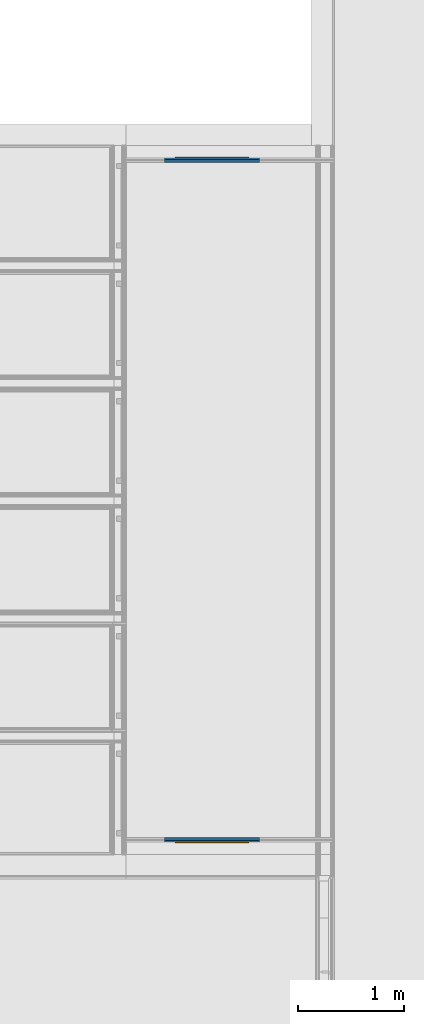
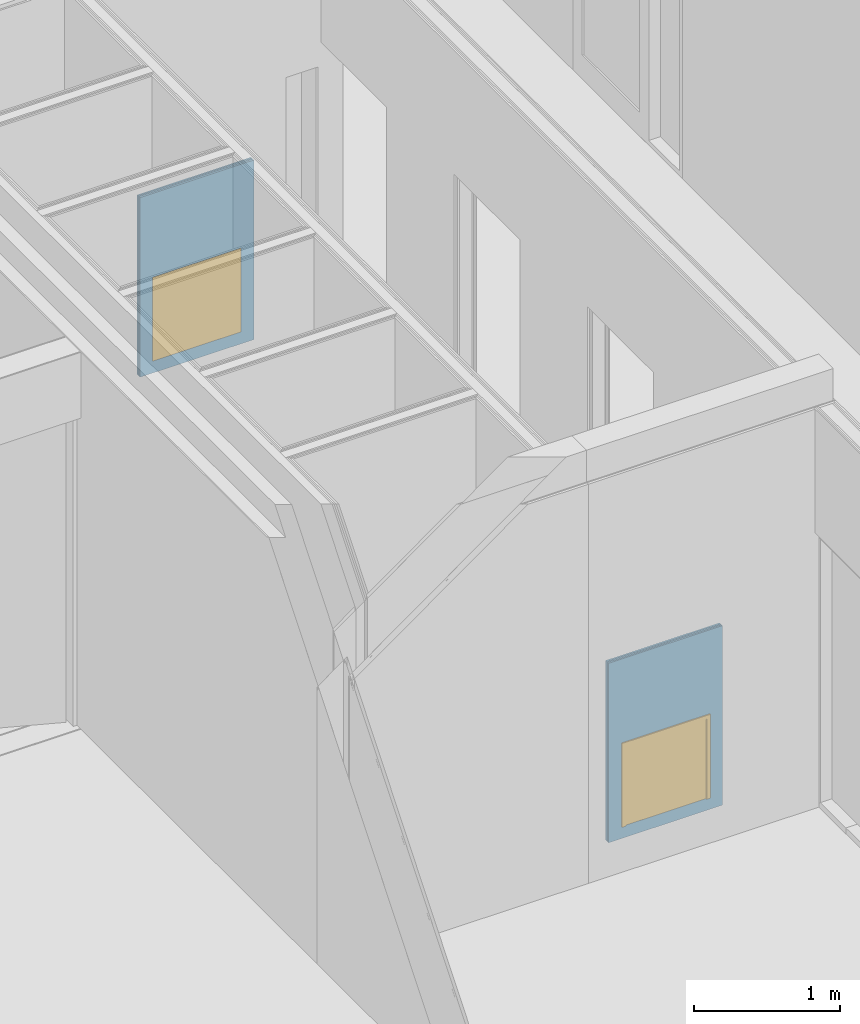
# One storey, part 26 of 139: 6 building element parts, 2 doors, 2 openings, 2 elements without a shape of their own.
"""IFC2X3 building model written with IfcOpenShell, lengths in millimetres."""

import ifcopenshell
import ifcopenshell.guid

model = None  # the IFC model being written
_history = None  # IfcOwnerHistory: only IFC2X3 demands one
_inside = {}  # id of a spatial element -> (the spatial element, [elements in it])
_under = {}  # id of a project, library or spatial element -> (it, [spatial elements below it])
_declared = {}  # id of a project -> (the project, [libraries it declares])
_typed = {}  # id of a type object -> (the type object, [elements of that type])
_made_of = {}  # id of a material, layer set ... -> (it, [elements and type objects made of it])


def new_model(schema):
    """Start an empty IFC model of exactly this schema.

    Asked for "IFC4X3", IfcOpenShell would pick the latest addendum, in which some entities
    have other attributes; the version numbers below select the first issue.
    IFC2X3 requires an IfcOwnerHistory on every rooted entity: one is made here for all.
    """
    global model, _history
    if schema == "IFC4X3":
        model = ifcopenshell.file(schema_version=(4, 3, 0, 0))
    else:
        model = ifcopenshell.file(schema=schema)
    _inside.clear()
    _under.clear()
    _declared.clear()
    _typed.clear()
    _made_of.clear()
    _history = None
    if model.schema == "IFC2X3":
        org = make("IfcOrganization", Name="unknown")
        user = make(
            "IfcPersonAndOrganization",
            ThePerson=make("IfcPerson", FamilyName="unknown"),
            TheOrganization=org,
        )
        app = make(
            "IfcApplication",
            ApplicationDeveloper=org,
            Version="unknown",
            ApplicationFullName="unknown",
            ApplicationIdentifier="unknown",
        )
        _history = make(
            "IfcOwnerHistory",
            OwningUser=user,
            OwningApplication=app,
            ChangeAction="ADDED",
            CreationDate=0,
        )
    return model


def make(cls, **values):
    """One entity of the class cls with the attributes given. An attribute that is None is left unset."""
    return model.create_entity(
        cls, **{name: value for name, value in values.items() if value is not None}
    )


def entity(cls, *values):
    """Any entity or typed value of the class cls, its attributes in the order of the schema. None: left unset."""
    e = model.create_entity(cls)
    for i, value in enumerate(values):
        if value is not None:
            e[i] = value
    return e


def rooted(cls, **values):
    """An entity with a GlobalId (a new one), such as an element, a storey or a relation."""
    return make(cls, GlobalId=ifcopenshell.guid.new(), OwnerHistory=_history, **values)


def si_unit(unit_type, name, prefix=None):
    """IfcSIUnit, for example si_unit("LENGTHUNIT", "METRE", prefix="MILLI")."""
    return make("IfcSIUnit", UnitType=unit_type, Prefix=prefix, Name=name)


def converted_unit(unit_type, name, factor, base, dimensions=None, offset=None):
    """IfcConversionBasedUnit, such as the inch: factor (a typed value) times the base unit."""
    return make(
        "IfcConversionBasedUnit"
        if offset is None
        else "IfcConversionBasedUnitWithOffset",
        ConversionOffset=offset,
        Dimensions=None
        if dimensions is None
        else entity("IfcDimensionalExponents", *dimensions),
        UnitType=unit_type,
        Name=name,
        ConversionFactor=make(
            "IfcMeasureWithUnit", ValueComponent=factor, UnitComponent=base
        ),
    )


def derived_unit(unit_type, elements):
    """IfcDerivedUnit: a product of units, each with its exponent."""
    return make(
        "IfcDerivedUnit",
        Elements=[
            make("IfcDerivedUnitElement", Unit=unit, Exponent=power)
            for unit, power in elements
        ],
        UnitType=unit_type,
    )


def money_unit(currency):
    """IfcMonetaryUnit."""
    return make("IfcMonetaryUnit", Currency=currency)


def assignment(units):
    """IfcUnitAssignment: the units of a project."""
    return None if units is None else make("IfcUnitAssignment", Units=units)


def point(xyz):
    """IfcCartesianPoint."""
    return None if xyz is None else make("IfcCartesianPoint", Coordinates=xyz)


def direction(xyz):
    """IfcDirection."""
    return None if xyz is None else make("IfcDirection", DirectionRatios=xyz)


def frame(location, z_axis=None, x_axis=None):
    """IfcAxis2Placement3D, a coordinate frame: its origin and axes. An axis left out is left unset."""
    return make(
        "IfcAxis2Placement3D",
        Location=point(location),
        Axis=direction(z_axis),
        RefDirection=direction(x_axis),
    )


def origin_with_axes():
    """The frame at (0, 0, 0) with the z axis (0, 0, 1) and the x axis (1, 0, 0) written out."""
    return frame((0.0, 0.0, 0.0), z_axis=(0.0, 0.0, 1.0), x_axis=(1.0, 0.0, 0.0))


def place(relative_to, where):
    """IfcLocalPlacement: puts the frame where relative to a parent placement (None: the world)."""
    return make(
        "IfcLocalPlacement", PlacementRelTo=relative_to, RelativePlacement=where
    )


def context(
    kind, dimensions, precision=None, world=None, true_north=None, identifier=None
):
    """IfcGeometricRepresentationContext, for example the 3D "Model" context."""
    return make(
        "IfcGeometricRepresentationContext",
        ContextIdentifier=identifier,
        ContextType=kind,
        CoordinateSpaceDimension=dimensions,
        Precision=precision,
        WorldCoordinateSystem=world,
        TrueNorth=true_north,
    )


def subcontext(parent, identifier, kind, view, scale=None):
    """IfcGeometricRepresentationSubContext, for example "Body" below "Model"."""
    return make(
        "IfcGeometricRepresentationSubContext",
        ContextIdentifier=identifier,
        ContextType=kind,
        ParentContext=parent,
        TargetScale=scale,
        TargetView=view,
    )


def project(units=None, contexts=None):
    """IfcProject with its units and contexts."""
    return rooted(
        "IfcProject",
        Name="project",
        RepresentationContexts=contexts,
        UnitsInContext=assignment(units),
    )


def spatial(cls, under=None, at=None, **own):
    """A site, building, storey or space (cls), placed at a placement, below another one or the project."""
    s = rooted(cls, ObjectPlacement=at, **own)
    if under is not None:
        _under.setdefault(under.id(), (under, []))[1].append(s)
    return s


def faces_of(points, faces, orient=None, outer=None):
    """IfcFace entities. A face is a list of loops; a loop is a list of indices into points, from 0.

    orient and outer hold one flag for each loop. By default every Orientation is true, the
    first loop of a face is its IfcFaceOuterBound and the others are IfcFaceBound.
    """
    made = []
    for i, loops in enumerate(faces):
        bounds = []
        for j, loop in enumerate(loops):
            is_outer = j == 0 if outer is None else outer[i][j]
            bounds.append(
                make(
                    "IfcFaceOuterBound" if is_outer else "IfcFaceBound",
                    Bound=make("IfcPolyLoop", Polygon=[points[k] for k in loop]),
                    Orientation=True if orient is None else orient[i][j],
                )
            )
        made.append(make("IfcFace", Bounds=bounds))
    return made


def faceted_brep(points, faces, orient=None, outer=None, voids=None):
    """IfcFacetedBrep: a solid bounded by flat faces; with voids (closed shells), ...WithVoids."""
    shared = [point(p) for p in points]
    hull = make("IfcClosedShell", CfsFaces=faces_of(shared, faces, orient, outer))
    if voids is None:
        return make("IfcFacetedBrep", Outer=hull)
    return make(
        "IfcFacetedBrepWithVoids",
        Outer=hull,
        Voids=[
            make(cls, CfsFaces=faces_of(shared, fs, o, b)) for cls, fs, o, b in voids
        ],
    )


def shape(context_of_items, identifier, shape_type, items):
    """IfcShapeRepresentation: the items that make up one representation, for example the "Body"."""
    return make(
        "IfcShapeRepresentation",
        ContextOfItems=context_of_items,
        RepresentationIdentifier=identifier,
        RepresentationType=shape_type,
        Items=items,
    )


def source(mapping_origin, context_of_items, identifier, shape_type, items):
    """IfcRepresentationMap: a shape defined once, which mapped items show again and again."""
    return make(
        "IfcRepresentationMap",
        MappingOrigin=mapping_origin,
        MappedRepresentation=shape(context_of_items, identifier, shape_type, items),
    )


def transform(
    local_origin,
    x_axis=None,
    y_axis=None,
    z_axis=None,
    scale=None,
    scale2=None,
    scale3=None,
    uniform=True,
):
    """IfcCartesianTransformationOperator3D, or its non-uniform kind. x_axis, y_axis, z_axis: its Axis1, 2, 3."""
    if uniform:
        return make(
            "IfcCartesianTransformationOperator3D",
            Axis1=direction(x_axis),
            Axis2=direction(y_axis),
            LocalOrigin=point(local_origin),
            Scale=scale,
            Axis3=direction(z_axis),
        )
    return make(
        "IfcCartesianTransformationOperator3DnonUniform",
        Axis1=direction(x_axis),
        Axis2=direction(y_axis),
        LocalOrigin=point(local_origin),
        Scale=scale,
        Axis3=direction(z_axis),
        Scale2=scale2,
        Scale3=scale3,
    )


def mapped(mapping_source, mapping_target):
    """IfcMappedItem: shows the shape of a source again, moved by a transform."""
    return make(
        "IfcMappedItem", MappingSource=mapping_source, MappingTarget=mapping_target
    )


def material(Name=None, Category=None):
    """IfcMaterial."""
    return make("IfcMaterial", Name=Name, Category=Category)


def made_of(thing, what):
    """Note that an element or type object is made of a material, layer set ...; save() writes the relation."""
    if what is not None:
        _made_of.setdefault(what.id(), (what, []))[1].append(thing)
    return thing


def type_object(cls, material=None, **own):
    """A type object (cls), such as IfcWallType, which elements share."""
    return made_of(rooted(cls, **own), material)


def element(
    cls,
    number,
    at=None,
    inside=None,
    cuts=None,
    type_object=None,
    material=None,
    context=None,
    identifier="Body",
    shape_type=None,
    held_by="IfcProductDefinitionShape",
    body=None,
    shapes=None,
    **own,
):
    """One element of the class cls, such as IfcWall. Its Tag is "e" and its number.

    at: its placement. inside: the storey or other place that contains it. cuts: it is an
    opening in that element (IfcRelVoidsElement). A single representation is given by context,
    identifier, shape_type and body (its items); several are given by shapes. held_by: the class
    of the entity that holds the representations. save() writes the other relations.
    """
    e = rooted(cls, Tag="e%d" % number, ObjectPlacement=at, **own)
    if body is not None:
        shapes = [shape(context, identifier, shape_type, body)]
    if shapes is not None:
        e.Representation = make(held_by, Representations=shapes)
    if inside is not None:
        _inside.setdefault(inside.id(), (inside, []))[1].append(e)
    if cuts is not None:
        rooted(
            "IfcRelVoidsElement", RelatingBuildingElement=cuts, RelatedOpeningElement=e
        )
    if type_object is not None:
        _typed.setdefault(type_object.id(), (type_object, []))[1].append(e)
    return made_of(e, material)


def fill(opening, filler):
    """IfcRelFillsElement: the door or window that sits in an opening."""
    return rooted(
        "IfcRelFillsElement",
        RelatingOpeningElement=opening,
        RelatedBuildingElement=filler,
    )


def aggregate(whole, parts):
    """IfcRelAggregates: a whole, such as a stair, and the parts it consists of."""
    return rooted("IfcRelAggregates", RelatingObject=whole, RelatedObjects=parts)


def save(model, path):
    """Write the relations noted so far, then the file.

    IfcRelAggregates (storeys below a building ...), IfcRelContainedInSpatialStructure (elements
    in a storey), IfcRelDefinesByType, IfcRelAssociatesMaterial and IfcRelDeclares: one each for
    every whole, place, type object, material and project.
    """
    for whole, parts in _under.values():
        aggregate(whole, parts)
    for where, things in _inside.values():
        rooted(
            "IfcRelContainedInSpatialStructure",
            RelatedElements=things,
            RelatingStructure=where,
        )
    for kind, things in _typed.values():
        rooted("IfcRelDefinesByType", RelatedObjects=things, RelatingType=kind)
    for what, things in _made_of.values():
        rooted("IfcRelAssociatesMaterial", RelatedObjects=things, RelatingMaterial=what)
    for by, libraries in _declared.values():
        rooted("IfcRelDeclares", RelatingContext=by, RelatedDefinitions=libraries)
    model.write(path)


model = new_model("IFC2X3")

# Units and contexts
model_context = context("Model", 3, precision=0.01, world=origin_with_axes(), true_north=direction((0.0, 1.0)))
body_context = subcontext(model_context, "Body", "Model", "MODEL_VIEW")
ifc_project = project(units=[si_unit("LENGTHUNIT", "METRE", prefix="MILLI"), si_unit("AREAUNIT", "SQUARE_METRE"), si_unit("VOLUMEUNIT", "CUBIC_METRE"), converted_unit("PLANEANGLEUNIT", "DEGREE", entity("IfcPlaneAngleMeasure", 0.0174532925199), si_unit("PLANEANGLEUNIT", "RADIAN"), dimensions=[0, 0, 0, 0, 0, 0, 0]), money_unit("EUR"), converted_unit("TIMEUNIT", "Year", entity("IfcTimeMeasure", 31556926.0), si_unit("TIMEUNIT", "SECOND"), dimensions=[0, 0, 1, 0, 0, 0, 0]), si_unit("MASSUNIT", "GRAM", prefix="KILO"), si_unit("THERMODYNAMICTEMPERATUREUNIT", "DEGREE_CELSIUS"), si_unit("LUMINOUSINTENSITYUNIT", "LUMEN"), si_unit("ENERGYUNIT", "JOULE", prefix="MEGA"), derived_unit("THERMALCONDUCTANCEUNIT", [(si_unit("POWERUNIT", "WATT"), 1), (si_unit("LENGTHUNIT", "METRE"), -1), (si_unit("THERMODYNAMICTEMPERATUREUNIT", "KELVIN"), -1)]), derived_unit("SPECIFICHEATCAPACITYUNIT", [(si_unit("ENERGYUNIT", "JOULE"), 1), (si_unit("MASSUNIT", "GRAM", prefix="KILO"), -1), (si_unit("THERMODYNAMICTEMPERATUREUNIT", "KELVIN"), -1)]), derived_unit("MASSDENSITYUNIT", [(si_unit("MASSUNIT", "GRAM", prefix="KILO"), 1), (si_unit("VOLUMEUNIT", "CUBIC_METRE"), -1)])], contexts=[model_context])

# Site, building, storey
site_placement = place(None, origin_with_axes())
site = spatial("IfcSite", under=ifc_project, at=site_placement, Name="Kolde pst 67a", CompositionType="ELEMENT")
building_placement = place(site_placement, origin_with_axes())
building = spatial("IfcBuilding", under=site, at=building_placement, Name="Riigigümnaasium", CompositionType="ELEMENT")
storey_placement = place(building_placement, frame((0.0, 0.0, 4600.0), z_axis=(0.0, 0.0, 1.0), x_axis=(1.0, 0.0, 0.0)))
storey = spatial("IfcBuildingStorey", under=building, at=storey_placement, Name="2. korrus", CompositionType="ELEMENT", Elevation=4600.0)

# Door
door_style_1 = type_object("IfcDoorStyle", Name="Door 25", ConstructionType="NOTDEFINED", OperationType="SINGLE_SWING_LEFT", ParameterTakesPrecedence=False, Sizeable=False)
shared_shape_1 = source(origin_with_axes(), body_context, "Body", "Brep", [
    faceted_brep([(320.0, -40.0, 0.0), (320.0, -50.0, 0.0), (320.0, -50.0, 670.0), (320.0, -40.0, 670.0), (332.0, -40.0, 0.0), (332.0, 0.0, 0.0), (350.0, 0.0, 0.0), (350.0, -50.0, 0.0), (350.0, -50.0, 670.0), (332.0, -40.0, 670.0), (350.0, 0.0, 670.0), (332.0, 0.0, 670.0)], [[[0, 1, 2, 3]], [[4, 5, 6, 7, 1, 0]], [[1, 7, 8, 2]], [[9, 3, 2, 8, 10, 11]], [[9, 4, 0, 3]], [[11, 5, 4, 9]], [[11, 10, 6, 5]], [[6, 10, 8, 7]]]),
    faceted_brep([(-332.0, -40.0, 670.0), (-332.0, 0.0, 670.0), (-350.0, 0.0, 670.0), (-350.0, -50.0, 670.0), (-320.0, -50.0, 670.0), (-320.0, -40.0, 670.0), (-332.0, -40.0, 0.0), (-332.0, 0.0, 0.0), (-350.0, 0.0, 0.0), (-350.0, -50.0, 0.0), (-320.0, -50.0, 0.0), (-320.0, -40.0, 0.0)], [[[0, 1, 2, 3, 4, 5]], [[0, 6, 7, 1]], [[7, 8, 2, 1]], [[2, 8, 9, 3]], [[3, 9, 10, 4]], [[5, 4, 10, 11]], [[5, 11, 6, 0]], [[6, 11, 10, 9, 8, 7]]]),
    faceted_brep([(332.0, 0.0, 682.0), (-332.0, 0.0, 682.0), (-332.0, 0.0, 670.0), (-350.0, 0.0, 670.0), (-350.0, 0.0, 700.0), (350.0, 0.0, 700.0), (350.0, 0.0, 670.0), (332.0, 0.0, 670.0), (332.0, -40.0, 682.0), (-332.0, -40.0, 682.0), (-332.0, -40.0, 670.0), (-320.0, -40.0, 670.0), (-320.0, -50.0, 670.0), (-350.0, -50.0, 670.0), (-350.0, -50.0, 700.0), (350.0, -50.0, 700.0), (350.0, -50.0, 670.0), (332.0, -40.0, 670.0), (320.0, -50.0, 670.0), (320.0, -40.0, 670.0)], [[[0, 1, 2, 3, 4, 5, 6, 7]], [[0, 8, 9, 1]], [[1, 9, 10, 2]], [[10, 11, 12, 13, 3, 2]], [[4, 3, 13, 14]], [[5, 4, 14, 15]], [[6, 5, 15, 16]], [[17, 7, 6, 16, 18, 19]], [[7, 17, 8, 0]], [[10, 9, 8, 17, 19, 11]], [[19, 18, 12, 11]], [[12, 18, 16, 15, 14, 13]]]),
    faceted_brep([(-332.0, 0.0, 0.0), (332.0, 0.0, 0.0), (332.0, -40.0, 0.0), (-332.0, -40.0, 0.0), (-332.0, 0.0, 682.0), (332.0, 0.0, 682.0), (332.0, -40.0, 682.0), (-332.0, -40.0, 682.0)], [[[0, 1, 2, 3]], [[0, 4, 5, 1]], [[1, 5, 6, 2]], [[3, 2, 6, 7]], [[4, 0, 3, 7]], [[5, 4, 7, 6]]]),
])
wall_2_placement = place(storey_placement, frame((73089.9995209, 14489.3653175, 0.0), z_axis=(0.0, 0.0, 1.0), x_axis=(-1.0, 0.0, 0.0)))
opening_2_placement = place(wall_2_placement, frame((450.0, 0.0, 100.0), z_axis=(0.0, 0.0, 1.0), x_axis=(1.0, 0.0, 0.0)))
door_1_placement = place(opening_2_placement, frame((350.0, 0.0, 0.0), z_axis=(0.0, 0.0, 1.0), x_axis=(-1.0, 0.0, 0.0)))
door_1 = element("IfcDoor", 1, at=door_1_placement, inside=storey, type_object=door_style_1, Name="Hooldusluuk vastavalt SA osale", ObjectType="DOOR", OverallHeight=700.0, OverallWidth=700.0, context=body_context, shape_type="MappedRepresentation", body=[
    mapped(shared_shape_1, transform((350.0, 0.0, 0.0))),
])

door_style_2 = type_object("IfcDoorStyle", Name="Door 25", ConstructionType="NOTDEFINED", OperationType="SINGLE_SWING_RIGHT", ParameterTakesPrecedence=False, Sizeable=False)
shared_shape_2 = source(origin_with_axes(), body_context, "Body", "Brep", [
    faceted_brep([(-320.0, -40.0, 0.0), (-320.0, -40.0, 670.0), (-320.0, -50.0, 670.0), (-320.0, -50.0, 0.0), (-332.0, -40.0, 670.0), (-332.0, -40.0, 0.0), (-332.0, 0.0, 670.0), (-350.0, 0.0, 670.0), (-350.0, -50.0, 670.0), (-350.0, -50.0, 0.0), (-350.0, 0.0, 0.0), (-332.0, 0.0, 0.0)], [[[0, 1, 2, 3]], [[4, 1, 0, 5]], [[4, 6, 7, 8, 2, 1]], [[3, 2, 8, 9]], [[5, 0, 3, 9, 10, 11]], [[6, 4, 5, 11]], [[6, 11, 10, 7]], [[10, 9, 8, 7]]]),
    faceted_brep([(332.0, -40.0, 670.0), (320.0, -40.0, 670.0), (320.0, -50.0, 670.0), (350.0, -50.0, 670.0), (350.0, 0.0, 670.0), (332.0, 0.0, 670.0), (332.0, -40.0, 0.0), (320.0, -40.0, 0.0), (320.0, -50.0, 0.0), (350.0, -50.0, 0.0), (350.0, 0.0, 0.0), (332.0, 0.0, 0.0)], [[[0, 1, 2, 3, 4, 5]], [[1, 0, 6, 7]], [[1, 7, 8, 2]], [[3, 2, 8, 9]], [[4, 3, 9, 10]], [[11, 5, 4, 10]], [[0, 5, 11, 6]], [[6, 11, 10, 9, 8, 7]]]),
    faceted_brep([(-332.0, 0.0, 682.0), (-332.0, 0.0, 670.0), (-350.0, 0.0, 670.0), (-350.0, 0.0, 700.0), (350.0, 0.0, 700.0), (350.0, 0.0, 670.0), (332.0, 0.0, 670.0), (332.0, 0.0, 682.0), (-332.0, -40.0, 682.0), (-332.0, -40.0, 670.0), (-320.0, -40.0, 670.0), (-320.0, -50.0, 670.0), (-350.0, -50.0, 670.0), (-350.0, -50.0, 700.0), (350.0, -50.0, 700.0), (350.0, -50.0, 670.0), (332.0, -40.0, 670.0), (320.0, -50.0, 670.0), (320.0, -40.0, 670.0), (332.0, -40.0, 682.0)], [[[0, 1, 2, 3, 4, 5, 6, 7]], [[1, 0, 8, 9]], [[9, 10, 11, 12, 2, 1]], [[2, 12, 13, 3]], [[3, 13, 14, 4]], [[4, 14, 15, 5]], [[16, 6, 5, 15, 17, 18]], [[7, 6, 16, 19]], [[0, 7, 19, 8]], [[16, 18, 10, 9, 8, 19]], [[10, 18, 17, 11]], [[17, 15, 14, 13, 12, 11]]]),
    faceted_brep([(332.0, 0.0, 0.0), (332.0, -40.0, 0.0), (-332.0, -40.0, 0.0), (-332.0, 0.0, 0.0), (332.0, 0.0, 682.0), (332.0, -40.0, 682.0), (-332.0, -40.0, 682.0), (-332.0, 0.0, 682.0)], [[[0, 1, 2, 3]], [[4, 5, 1, 0]], [[1, 5, 6, 2]], [[3, 2, 6, 7]], [[0, 3, 7, 4]], [[7, 6, 5, 4]]]),
])
wall_1_placement = place(storey_placement, frame((73089.9995421, 20863.7853131, 0.0), z_axis=(0.0, 0.0, 1.0), x_axis=(-1.0, 0.0, 0.0)))
opening_1_placement = place(wall_1_placement, frame((450.0, 0.0, 100.0), z_axis=(0.0, 0.0, 1.0), x_axis=(1.0, 0.0, 0.0)))
door_2_placement = place(opening_1_placement, frame((-350.0, 0.0, 0.0), z_axis=(0.0, 0.0, 1.0), x_axis=(1.0, 0.0, 0.0)))
door_2 = element("IfcDoor", 2, at=door_2_placement, inside=storey, type_object=door_style_2, Name="Hooldusluuk vastavalt SA osale", ObjectType="DOOR", OverallHeight=700.0, OverallWidth=700.0, context=body_context, shape_type="MappedRepresentation", body=[
    mapped(shared_shape_2, transform((350.0, 0.0, 0.0))),
])

# Wall, opening
wall_type = type_object("IfcWallType", Name="SS-MK-10/11_kollektorvarisein plaaditud 40", PredefinedType="NOTDEFINED")
wall_1 = element("IfcWall", 3, at=wall_1_placement, inside=storey, type_object=wall_type, Name="Sisesein")
opening_1 = element("IfcOpeningElement", 4, at=opening_1_placement, cuts=wall_1, Name="Hooldusluuk vastavalt SA osale", context=body_context, shape_type="Brep", body=[
    faceted_brep([(350.0, -40.0, 700.0), (350.0, -40.0, 0.0), (350.0, 80.0, 0.0), (350.0, 80.0, 700.0), (-350.0, -40.0, 700.0), (-350.0, -40.0, 0.0), (-350.0, 80.0, 0.0), (-350.0, 80.0, 700.0)], [[[0, 1, 2, 3]], [[0, 4, 5, 1]], [[1, 5, 6, 2]], [[3, 2, 6, 7]], [[4, 0, 3, 7]], [[5, 4, 7, 6]]]),
])

fill(opening_1, door_2)

# Building element part
ifc_material_1 = material(Name="_VIIMISTLUSKIHT - viimistlus vastavalt SA osale")
building_element_part_1_placement = place(wall_1_placement, origin_with_axes())
building_element_part_1 = element("IfcBuildingElementPart", 5, at=building_element_part_1_placement, material=ifc_material_1, Name="_VIIMISTLUSKIHT - viimistlus vastavalt SA osale", context=body_context, shape_type="Brep", body=[
    faceted_brep([(900.000018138, 0.0, 0.0), (0.0, 0.0, 0.0), (0.0, 0.0, 1500.0), (900.000018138, 0.0, 1500.0), (800.0, 0.0, 100.0), (800.0, 0.0, 800.0), (100.0, 0.0, 800.0), (100.0, 0.0, 100.0), (900.000018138, -15.0, 0.0), (0.0, -15.0, 0.0), (0.0, -15.0, 1500.0), (900.000018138, -15.0, 1500.0), (800.0, -15.0, 100.0), (800.0, -15.0, 800.0), (100.0, -15.0, 800.0), (100.0, -15.0, 100.0)], [[[0, 1, 2, 3], [4, 5, 6, 7]], [[8, 9, 1, 0]], [[2, 1, 9, 10]], [[3, 2, 10, 11]], [[8, 0, 3, 11]], [[12, 13, 5, 4]], [[13, 14, 6, 5]], [[14, 15, 7, 6]], [[15, 12, 4, 7]], [[11, 10, 9, 8], [12, 15, 14, 13]]]),
])

ifc_material_2 = material(Name="_PLAATMATERJAL - kipsplaat veekindel")
building_element_part_2_placement = place(wall_1_placement, origin_with_axes())
building_element_part_2 = element("IfcBuildingElementPart", 6, at=building_element_part_2_placement, material=ifc_material_2, Name="_PLAATMATERJAL - kipsplaat veekindel", context=body_context, shape_type="Brep", body=[
    faceted_brep([(900.000018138, -15.0, 0.0), (0.0, -15.0, 0.0), (0.0, -15.0, 1500.0), (900.000018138, -15.0, 1500.0), (800.0, -15.0, 100.0), (800.0, -15.0, 800.0), (100.0, -15.0, 800.0), (100.0, -15.0, 100.0), (900.000018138, -27.5, 0.0), (0.0, -27.5, 0.0), (0.0, -27.5, 1500.0), (900.000018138, -27.5, 1500.0), (800.0, -27.5, 100.0), (800.0, -27.5, 800.0), (100.0, -27.5, 800.0), (100.0, -27.5, 100.0)], [[[0, 1, 2, 3], [4, 5, 6, 7]], [[8, 9, 1, 0]], [[2, 1, 9, 10]], [[3, 2, 10, 11]], [[8, 0, 3, 11]], [[12, 13, 5, 4]], [[13, 14, 6, 5]], [[14, 15, 7, 6]], [[15, 12, 4, 7]], [[11, 10, 9, 8], [12, 15, 14, 13]]]),
])

building_element_part_3_placement = place(wall_1_placement, origin_with_axes())
building_element_part_3 = element("IfcBuildingElementPart", 7, at=building_element_part_3_placement, material=ifc_material_2, Name="_PLAATMATERJAL - kipsplaat veekindel", context=body_context, shape_type="Brep", body=[
    faceted_brep([(900.000018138, -27.5, 0.0), (0.0, -27.5, 0.0), (0.0, -27.5, 1500.0), (900.000018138, -27.5, 1500.0), (800.0, -27.5, 100.0), (800.0, -27.5, 800.0), (100.0, -27.5, 800.0), (100.0, -27.5, 100.0), (900.000018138, -40.0, 0.0), (0.0, -40.0, 0.0), (0.0, -40.0, 1500.0), (900.000018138, -40.0, 1500.0), (800.0, -40.0, 100.0), (800.0, -40.0, 800.0), (100.0, -40.0, 800.0), (100.0, -40.0, 100.0)], [[[0, 1, 2, 3], [4, 5, 6, 7]], [[8, 9, 1, 0]], [[2, 1, 9, 10]], [[3, 2, 10, 11]], [[8, 0, 3, 11]], [[12, 13, 5, 4]], [[13, 14, 6, 5]], [[14, 15, 7, 6]], [[15, 12, 4, 7]], [[11, 10, 9, 8], [12, 15, 14, 13]]]),
])

aggregate(wall_1, [building_element_part_1, building_element_part_2, building_element_part_3])

# Wall, opening
wall_2 = element("IfcWall", 8, at=wall_2_placement, inside=storey, type_object=wall_type, Name="Sisesein")
opening_2 = element("IfcOpeningElement", 9, at=opening_2_placement, cuts=wall_2, Name="Hooldusluuk vastavalt SA osale", context=body_context, shape_type="Brep", body=[
    faceted_brep([(350.0, -80.0, 700.0), (350.0, -80.0, 0.0), (350.0, 40.0, 0.0), (350.0, 40.0, 700.0), (-350.0, -80.0, 700.0), (-350.0, -80.0, 0.0), (-350.0, 40.0, 0.0), (-350.0, 40.0, 700.0)], [[[0, 1, 2, 3]], [[0, 4, 5, 1]], [[1, 5, 6, 2]], [[3, 2, 6, 7]], [[4, 0, 3, 7]], [[5, 4, 7, 6]]]),
])

fill(opening_2, door_1)

# Building element part
building_element_part_4_placement = place(wall_2_placement, origin_with_axes())
building_element_part_4 = element("IfcBuildingElementPart", 10, at=building_element_part_4_placement, material=ifc_material_2, Name="_PLAATMATERJAL - kipsplaat veekindel", context=body_context, shape_type="Brep", body=[
    faceted_brep([(900.000018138, 40.0, 0.0), (0.0, 40.0, 0.0), (0.0, 40.0, 1500.0), (900.000018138, 40.0, 1500.0), (800.0, 40.0, 100.0), (800.0, 40.0, 800.0), (100.0, 40.0, 800.0), (100.0, 40.0, 100.0), (900.000018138, 27.5, 0.0), (0.0, 27.5, 0.0), (0.0, 27.5, 1500.0), (900.000018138, 27.5, 1500.0), (800.0, 27.5, 100.0), (800.0, 27.5, 800.0), (100.0, 27.5, 800.0), (100.0, 27.5, 100.0)], [[[0, 1, 2, 3], [4, 5, 6, 7]], [[8, 9, 1, 0]], [[9, 10, 2, 1]], [[3, 2, 10, 11]], [[3, 11, 8, 0]], [[12, 13, 5, 4]], [[13, 14, 6, 5]], [[14, 15, 7, 6]], [[15, 12, 4, 7]], [[11, 10, 9, 8], [12, 15, 14, 13]]]),
])

building_element_part_5_placement = place(wall_2_placement, origin_with_axes())
building_element_part_5 = element("IfcBuildingElementPart", 11, at=building_element_part_5_placement, material=ifc_material_2, Name="_PLAATMATERJAL - kipsplaat veekindel", context=body_context, shape_type="Brep", body=[
    faceted_brep([(900.000018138, 27.5, 0.0), (0.0, 27.5, 0.0), (0.0, 27.5, 1500.0), (900.000018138, 27.5, 1500.0), (800.0, 27.5, 100.0), (800.0, 27.5, 800.0), (100.0, 27.5, 800.0), (100.0, 27.5, 100.0), (900.000018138, 15.0, 0.0), (0.0, 15.0, 0.0), (0.0, 15.0, 1500.0), (900.000018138, 15.0, 1500.0), (800.0, 15.0, 100.0), (800.0, 15.0, 800.0), (100.0, 15.0, 800.0), (100.0, 15.0, 100.0)], [[[0, 1, 2, 3], [4, 5, 6, 7]], [[8, 9, 1, 0]], [[9, 10, 2, 1]], [[3, 2, 10, 11]], [[3, 11, 8, 0]], [[12, 13, 5, 4]], [[13, 14, 6, 5]], [[14, 15, 7, 6]], [[15, 12, 4, 7]], [[11, 10, 9, 8], [12, 15, 14, 13]]]),
])

building_element_part_6_placement = place(wall_2_placement, origin_with_axes())
building_element_part_6 = element("IfcBuildingElementPart", 12, at=building_element_part_6_placement, material=ifc_material_1, Name="_VIIMISTLUSKIHT - viimistlus vastavalt SA osale", context=body_context, shape_type="Brep", body=[
    faceted_brep([(900.000018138, 15.0, 0.0), (0.0, 15.0, 0.0), (0.0, 15.0, 1500.0), (900.000018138, 15.0, 1500.0), (800.0, 15.0, 100.0), (800.0, 15.0, 800.0), (100.0, 15.0, 800.0), (100.0, 15.0, 100.0), (900.000018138, 0.0, 0.0), (0.0, 0.0, 0.0), (0.0, 0.0, 1500.0), (900.000018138, 0.0, 1500.0), (800.0, 0.0, 100.0), (800.0, 0.0, 800.0), (100.0, 0.0, 800.0), (100.0, 0.0, 100.0)], [[[0, 1, 2, 3], [4, 5, 6, 7]], [[8, 9, 1, 0]], [[9, 10, 2, 1]], [[3, 2, 10, 11]], [[3, 11, 8, 0]], [[12, 13, 5, 4]], [[13, 14, 6, 5]], [[14, 15, 7, 6]], [[15, 12, 4, 7]], [[11, 10, 9, 8], [12, 15, 14, 13]]]),
])

aggregate(wall_2, [building_element_part_4, building_element_part_5, building_element_part_6])

save(model, "model.ifc")
